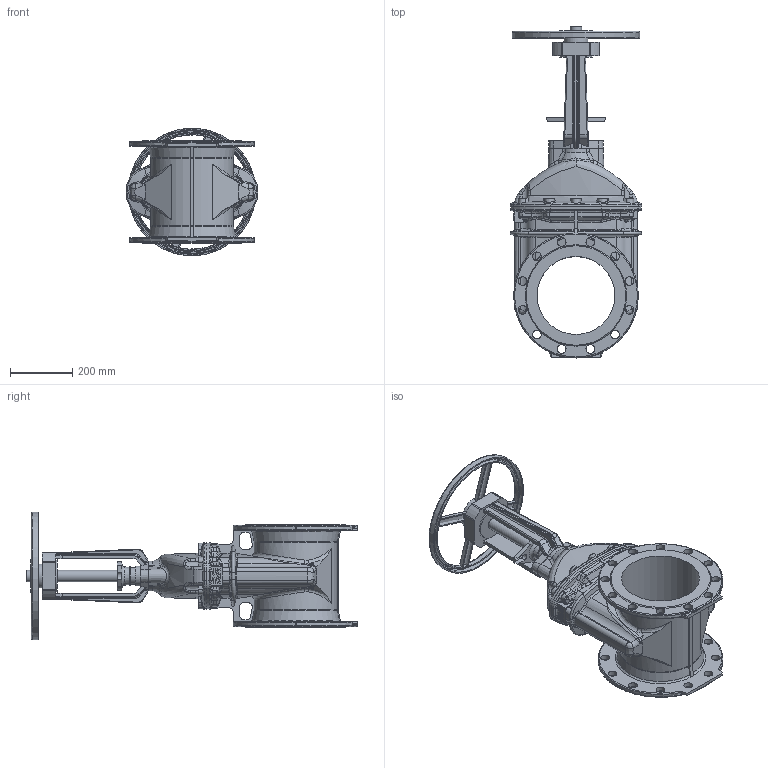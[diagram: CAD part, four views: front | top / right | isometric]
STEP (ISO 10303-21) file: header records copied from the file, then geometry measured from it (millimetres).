
FILE_DESCRIPTION (( 'STEP AP203' ), '1' );
FILE_NAME ('O_21_34_DN250_41XXXXX close_AA0.step', '2020-02-12T09:27:57', ( 'Windows User' ), ( 'AVK' ), 'SwSTEP 2.0', 'SolidWorks 2012', '' );
FILE_SCHEMA (( 'CONFIG_CONTROL_DESIGN' ));
Length unit declared in the file: millimetre
Products named in the file (1): O_21_34_DN250_41XXXXX close_AA0
Bounding box: 421.93 x 1064.5 x 409.45 mm (x, y, z)
Volume: 24782578 mm3; surface area: 1711374.9 mm2
Topology: 1 solids, 1 shells, 1053 faces, 2698 edges, 1657 vertices
Faces by surface type: bspline 348, plane 268, cylinder 195, cone 146, torus 94, sphere 2
Full cylindrical faces by diameter (mm): 28 x24, 36 x2, 51.9 x1, 58 x1, 64 x1, 77 x1, 105 x2, 250 x1
Entity records: 47114 total; most frequent: CARTESIAN_POINT 25017, ORIENTED_EDGE 5212, DIRECTION 3791, EDGE_CURVE 2606, VERTEX_POINT 1621, AXIS2_PLACEMENT_3D 1519, EDGE_LOOP 1185, FACE_OUTER_BOUND 1094
